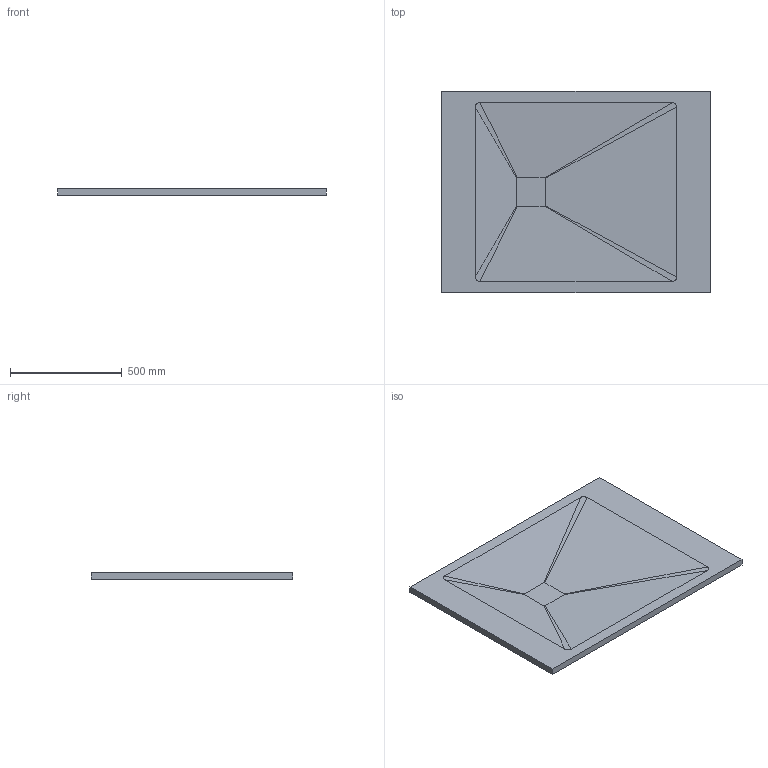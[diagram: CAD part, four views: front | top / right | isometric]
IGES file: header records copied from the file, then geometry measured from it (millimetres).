
Global section: file name: C:\Users\Utente; native system: Rhinoceros ( Aug 11 2021 ); preprocessor: Trout Lake IGES 012 Aug 11 2021; date: 220621.060649; units: millimetre
Bounding box: 1200 x 900 x 30 mm (x, y, z)
Surface area: 2505067.6 mm2 (no closed solid volume)
Topology: 0 solids, 0 shells, 820 faces, 4814 edges, 4686 vertices
Faces by surface type: bspline 820
